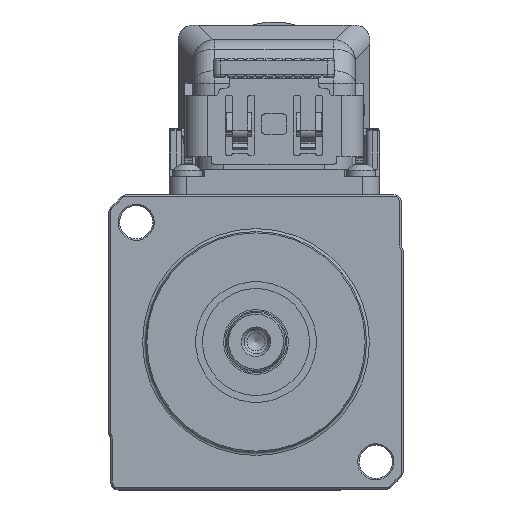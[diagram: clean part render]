
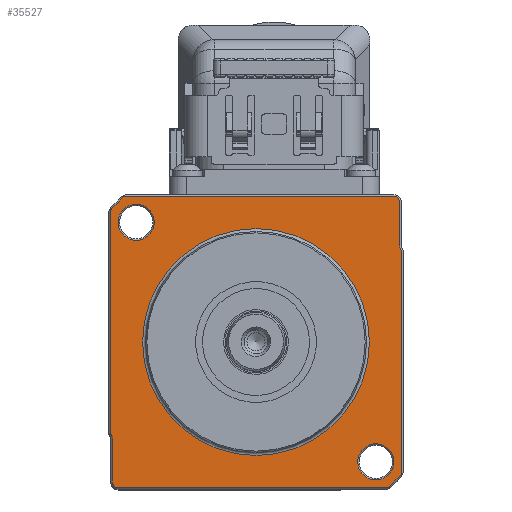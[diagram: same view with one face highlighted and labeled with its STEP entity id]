
A CAD part, top view. The second image highlights one B-rep face of the part: STEP entity #35527.
In plain terms, the highlighted planar face has unit normal (0, 0, 1).
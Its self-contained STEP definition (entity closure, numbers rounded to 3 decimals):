
#1835=FACE_BOUND('',#5687,.T.);
#1836=FACE_BOUND('',#5688,.T.);
#1837=FACE_BOUND('',#5689,.T.);
#2193=PLANE('',#38098);
#3679=FACE_OUTER_BOUND('',#5686,.T.);
#5686=EDGE_LOOP('',(#27121,#27122,#27123,#27124,#27125,#27126,#27127,#27128,
#27129,#27130,#27131,#27132,#27133,#27134,#27135,#27136,#27137,#27138));
#5687=EDGE_LOOP('',(#27139));
#5688=EDGE_LOOP('',(#27140));
#5689=EDGE_LOOP('',(#27141));
#8058=LINE('',#55146,#11618);
#8059=LINE('',#55150,#11619);
#8060=LINE('',#55154,#11620);
#8061=LINE('',#55160,#11621);
#8062=LINE('',#55164,#11622);
#8063=LINE('',#55168,#11623);
#8064=LINE('',#55172,#11624);
#8065=LINE('',#55178,#11625);
#11618=VECTOR('',#43547,10.);
#11619=VECTOR('',#43550,10.);
#11620=VECTOR('',#43553,10.);
#11621=VECTOR('',#43558,10.);
#11622=VECTOR('',#43561,10.);
#11623=VECTOR('',#43564,10.);
#11624=VECTOR('',#43567,10.);
#11625=VECTOR('',#43572,10.);
#14745=CIRCLE('',#38097,2.45);
#14746=CIRCLE('',#38099,0.8);
#14747=CIRCLE('',#38100,0.8);
#14748=CIRCLE('',#38101,0.8);
#14749=CIRCLE('',#38102,1.2);
#14750=CIRCLE('',#38103,0.8);
#14751=CIRCLE('',#38104,0.8);
#14752=CIRCLE('',#38105,0.8);
#14753=CIRCLE('',#38106,0.8);
#14754=CIRCLE('',#38107,1.2);
#14755=CIRCLE('',#38108,0.8);
#14756=CIRCLE('',#38109,2.45);
#14757=CIRCLE('',#38110,15.4);
#16528=VERTEX_POINT('',#55140);
#16529=VERTEX_POINT('',#55144);
#16530=VERTEX_POINT('',#55145);
#16531=VERTEX_POINT('',#55147);
#16532=VERTEX_POINT('',#55149);
#16533=VERTEX_POINT('',#55151);
#16534=VERTEX_POINT('',#55153);
#16535=VERTEX_POINT('',#55155);
#16536=VERTEX_POINT('',#55157);
#16537=VERTEX_POINT('',#55159);
#16538=VERTEX_POINT('',#55161);
#16539=VERTEX_POINT('',#55163);
#16540=VERTEX_POINT('',#55165);
#16541=VERTEX_POINT('',#55167);
#16542=VERTEX_POINT('',#55169);
#16543=VERTEX_POINT('',#55171);
#16544=VERTEX_POINT('',#55173);
#16545=VERTEX_POINT('',#55175);
#16546=VERTEX_POINT('',#55177);
#16547=VERTEX_POINT('',#55180);
#16548=VERTEX_POINT('',#55182);
#20398=EDGE_CURVE('',#16528,#16528,#14745,.T.);
#20399=EDGE_CURVE('',#16529,#16530,#8058,.T.);
#20400=EDGE_CURVE('',#16531,#16529,#14746,.T.);
#20401=EDGE_CURVE('',#16532,#16531,#8059,.T.);
#20402=EDGE_CURVE('',#16533,#16532,#14747,.T.);
#20403=EDGE_CURVE('',#16534,#16533,#8060,.T.);
#20404=EDGE_CURVE('',#16535,#16534,#14748,.T.);
#20405=EDGE_CURVE('',#16536,#16535,#14749,.T.);
#20406=EDGE_CURVE('',#16537,#16536,#8061,.T.);
#20407=EDGE_CURVE('',#16538,#16537,#14750,.T.);
#20408=EDGE_CURVE('',#16539,#16538,#8062,.T.);
#20409=EDGE_CURVE('',#16540,#16539,#14751,.T.);
#20410=EDGE_CURVE('',#16541,#16540,#8063,.T.);
#20411=EDGE_CURVE('',#16542,#16541,#14752,.T.);
#20412=EDGE_CURVE('',#16543,#16542,#8064,.T.);
#20413=EDGE_CURVE('',#16544,#16543,#14753,.T.);
#20414=EDGE_CURVE('',#16545,#16544,#14754,.T.);
#20415=EDGE_CURVE('',#16546,#16545,#8065,.T.);
#20416=EDGE_CURVE('',#16530,#16546,#14755,.T.);
#20417=EDGE_CURVE('',#16547,#16547,#14756,.T.);
#20418=EDGE_CURVE('',#16548,#16548,#14757,.T.);
#27121=ORIENTED_EDGE('',*,*,#20399,.F.);
#27122=ORIENTED_EDGE('',*,*,#20400,.F.);
#27123=ORIENTED_EDGE('',*,*,#20401,.F.);
#27124=ORIENTED_EDGE('',*,*,#20402,.F.);
#27125=ORIENTED_EDGE('',*,*,#20403,.F.);
#27126=ORIENTED_EDGE('',*,*,#20404,.F.);
#27127=ORIENTED_EDGE('',*,*,#20405,.F.);
#27128=ORIENTED_EDGE('',*,*,#20406,.F.);
#27129=ORIENTED_EDGE('',*,*,#20407,.F.);
#27130=ORIENTED_EDGE('',*,*,#20408,.F.);
#27131=ORIENTED_EDGE('',*,*,#20409,.F.);
#27132=ORIENTED_EDGE('',*,*,#20410,.F.);
#27133=ORIENTED_EDGE('',*,*,#20411,.F.);
#27134=ORIENTED_EDGE('',*,*,#20412,.F.);
#27135=ORIENTED_EDGE('',*,*,#20413,.F.);
#27136=ORIENTED_EDGE('',*,*,#20414,.F.);
#27137=ORIENTED_EDGE('',*,*,#20415,.F.);
#27138=ORIENTED_EDGE('',*,*,#20416,.F.);
#27139=ORIENTED_EDGE('',*,*,#20417,.F.);
#27140=ORIENTED_EDGE('',*,*,#20418,.F.);
#27141=ORIENTED_EDGE('',*,*,#20398,.F.);
#35527=ADVANCED_FACE('',(#3679,#1835,#1836,#1837),#2193,.F.);
#38097=AXIS2_PLACEMENT_3D('',#55142,#43543,#43544);
#38098=AXIS2_PLACEMENT_3D('',#55143,#43545,#43546);
#38099=AXIS2_PLACEMENT_3D('',#55148,#43548,#43549);
#38100=AXIS2_PLACEMENT_3D('',#55152,#43551,#43552);
#38101=AXIS2_PLACEMENT_3D('',#55156,#43554,#43555);
#38102=AXIS2_PLACEMENT_3D('',#55158,#43556,#43557);
#38103=AXIS2_PLACEMENT_3D('',#55162,#43559,#43560);
#38104=AXIS2_PLACEMENT_3D('',#55166,#43562,#43563);
#38105=AXIS2_PLACEMENT_3D('',#55170,#43565,#43566);
#38106=AXIS2_PLACEMENT_3D('',#55174,#43568,#43569);
#38107=AXIS2_PLACEMENT_3D('',#55176,#43570,#43571);
#38108=AXIS2_PLACEMENT_3D('',#55179,#43573,#43574);
#38109=AXIS2_PLACEMENT_3D('',#55181,#43575,#43576);
#38110=AXIS2_PLACEMENT_3D('',#55183,#43577,#43578);
#43543=DIRECTION('center_axis',(0.,0.,
1.));
#43544=DIRECTION('ref_axis',(1.,0.,0.));
#43545=DIRECTION('center_axis',(0.,0.,
-1.));
#43546=DIRECTION('ref_axis',(-1.,0.,0.));
#43547=DIRECTION('',(1.,0.,0.));
#43548=DIRECTION('center_axis',(0.,0.,
-1.));
#43549=DIRECTION('ref_axis',(-0.383,0.924,0.));
#43550=DIRECTION('',(0.707,0.707,0.));
#43551=DIRECTION('center_axis',(0.,0.,
-1.));
#43552=DIRECTION('ref_axis',(-0.924,0.383,0.));
#43553=DIRECTION('',(0.,1.,0.));
#43554=DIRECTION('center_axis',(0.,0.,
-1.));
#43555=DIRECTION('ref_axis',(-1.,0.,0.));
#43556=DIRECTION('center_axis',(0.,0.,
1.));
#43557=DIRECTION('ref_axis',(0.924,0.383,0.));
#43558=DIRECTION('',(0.,1.,0.));
#43559=DIRECTION('center_axis',(0.,0.,
-1.));
#43560=DIRECTION('ref_axis',(-0.707,-0.707,0.));
#43561=DIRECTION('',(-1.,0.,0.));
#43562=DIRECTION('center_axis',(0.,0.,
-1.));
#43563=DIRECTION('ref_axis',(0.383,-0.924,0.));
#43564=DIRECTION('',(-0.707,-0.707,0.));
#43565=DIRECTION('center_axis',(0.,0.,
-1.));
#43566=DIRECTION('ref_axis',(0.924,-0.383,0.));
#43567=DIRECTION('',(0.,-1.,0.));
#43568=DIRECTION('center_axis',(0.,0.,
-1.));
#43569=DIRECTION('ref_axis',(1.,0.,0.));
#43570=DIRECTION('center_axis',(0.,0.,
1.));
#43571=DIRECTION('ref_axis',(-0.924,-0.383,0.));
#43572=DIRECTION('',(0.,-1.,0.));
#43573=DIRECTION('center_axis',(0.,0.,
-1.));
#43574=DIRECTION('ref_axis',(0.707,0.707,0.));
#43575=DIRECTION('center_axis',(0.,0.,
1.));
#43576=DIRECTION('ref_axis',(1.,0.,0.));
#43577=DIRECTION('center_axis',(0.,0.,
1.));
#43578=DIRECTION('ref_axis',(0.,1.,0.));
#55140=CARTESIAN_POINT('',(13.813,-16.263,5.));
#55142=CARTESIAN_POINT('Origin',(16.263,-16.263,5.));
#55143=CARTESIAN_POINT('Origin',(0.,-30.,5.));
#55144=CARTESIAN_POINT('',(-17.586,19.8,5.));
#55145=CARTESIAN_POINT('',(18.7,19.8,5.));
#55146=CARTESIAN_POINT('',(9.85,19.8,5.));
#55147=CARTESIAN_POINT('',(-18.151,19.566,5.));
#55148=CARTESIAN_POINT('Origin',(-17.586,19.,5.));
#55149=CARTESIAN_POINT('',(-19.566,18.151,5.));
#55150=CARTESIAN_POINT('',(-25.859,11.859,5.));
#55151=CARTESIAN_POINT('',(-19.8,17.586,5.));
#55152=CARTESIAN_POINT('Origin',(-19.,17.586,5.));
#55153=CARTESIAN_POINT('',(-19.8,-12.161,5.));
#55154=CARTESIAN_POINT('',(-19.8,-6.,5.));
#55155=CARTESIAN_POINT('',(-19.68,-12.582,5.));
#55156=CARTESIAN_POINT('Origin',(-19.,-12.161,5.));
#55157=CARTESIAN_POINT('',(-19.5,-13.214,5.));
#55158=CARTESIAN_POINT('Origin',(-20.7,-13.214,5.));
#55159=CARTESIAN_POINT('',(-19.5,-19.,5.));
#55160=CARTESIAN_POINT('',(-19.5,-21.25,5.));
#55161=CARTESIAN_POINT('',(-18.7,-19.8,5.));
#55162=CARTESIAN_POINT('Origin',(-18.7,-19.,5.));
#55163=CARTESIAN_POINT('',(17.586,-19.8,5.));
#55164=CARTESIAN_POINT('',(-9.85,-19.8,5.));
#55165=CARTESIAN_POINT('',(18.151,-19.566,5.));
#55166=CARTESIAN_POINT('Origin',(17.586,-19.,5.));
#55167=CARTESIAN_POINT('',(19.566,-18.151,5.));
#55168=CARTESIAN_POINT('',(10.859,-26.859,5.));
#55169=CARTESIAN_POINT('',(19.8,-17.586,5.));
#55170=CARTESIAN_POINT('Origin',(19.,-17.586,5.));
#55171=CARTESIAN_POINT('',(19.8,12.161,5.));
#55172=CARTESIAN_POINT('',(19.8,-24.,5.));
#55173=CARTESIAN_POINT('',(19.68,12.582,5.));
#55174=CARTESIAN_POINT('Origin',(19.,12.161,5.));
#55175=CARTESIAN_POINT('',(19.5,13.214,5.));
#55176=CARTESIAN_POINT('Origin',(20.7,13.214,5.));
#55177=CARTESIAN_POINT('',(19.5,19.,5.));
#55178=CARTESIAN_POINT('',(19.5,-8.75,5.));
#55179=CARTESIAN_POINT('Origin',(18.7,19.,5.));
#55180=CARTESIAN_POINT('',(-18.713,16.263,5.));
#55181=CARTESIAN_POINT('Origin',(-16.263,16.263,5.));
#55182=CARTESIAN_POINT('',(-15.4,0.,5.));
#55183=CARTESIAN_POINT('Origin',(0.,0.,
5.));
